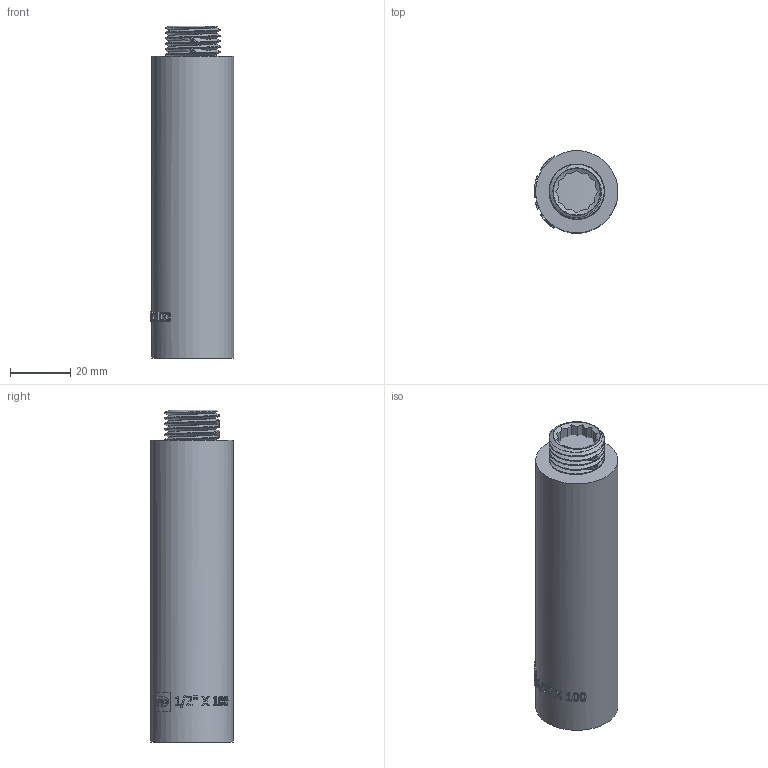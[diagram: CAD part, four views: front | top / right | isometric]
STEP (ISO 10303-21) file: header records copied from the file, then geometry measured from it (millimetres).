
FILE_DESCRIPTION(/* description */ (''),/* implementation_level */ '2;1');
FILE_NAME(/* name */ 'C:\Users\Doom\Desktop\Фадотех\Резьба\UD100 18.03.2020\UD100 18.03.2020.stp',/* time_stamp */ '2022-01-22T12:18:50+02:00',/* author */ ('Doom'),/* organization */ (''),/* preprocessor_version */ 'ST-DEVELOPER v18',/* originating_system */ 'Autodesk Inventor 2020',/* authorisation */ '');
FILE_SCHEMA (('AUTOMOTIVE_DESIGN { 1 0 10303 214 3 1 1 }'));
Length unit declared in the file: millimetre
Products named in the file (1): UD100 18.03.2020
Bounding box: 27.8 x 27.3 x 110 mm (x, y, z)
Volume: 36456.7 mm3; surface area: 24574.9 mm2
Topology: 3 solids, 3 shells, 211 faces, 566 edges, 376 vertices
Faces by surface type: plane 86, bspline 68, cylinder 54, cone 3
Full cylindrical faces by diameter (mm): 15.649 x2, 17.107 x1, 18.26 x23, 18.34 x6, 20.95 x2, 21.5 x1, 27.3 x1
Entity records: 20462 total; most frequent: CARTESIAN_POINT 15778, ORIENTED_EDGE 1124, DIRECTION 703, EDGE_CURVE 562, VERTEX_POINT 374, AXIS2_PLACEMENT_3D 245, EDGE_LOOP 234, LINE 213
